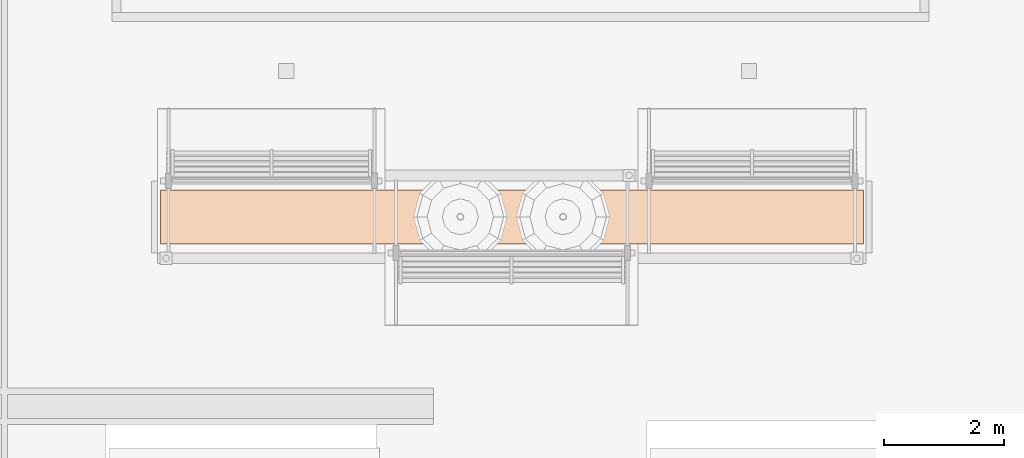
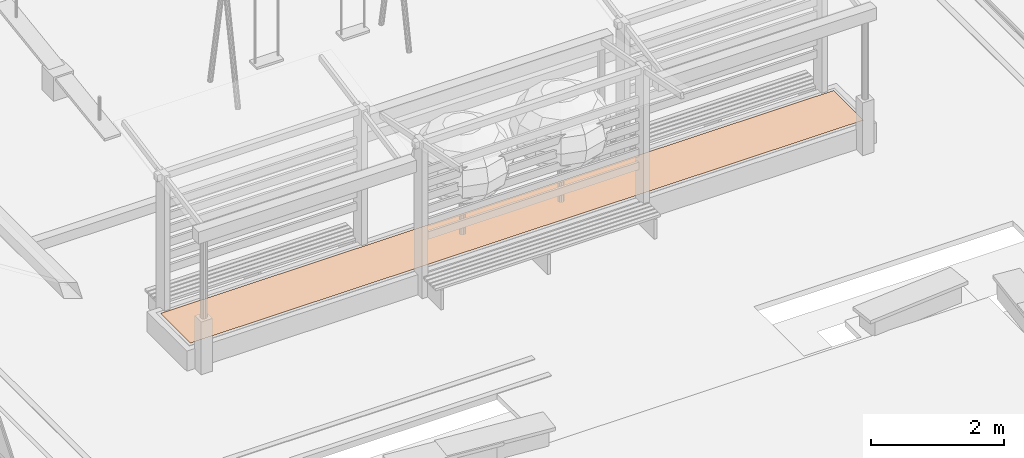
# One storey, part 167 of 177: 1 geographic element.
"""IFC4 building model written with IfcOpenShell, lengths in metres."""

from ifc_helpers import new_model, si_unit, origin, origin_with_axes, place, context, subcontext, project, spatial, triangles, element, save


model = new_model("IFC4")

# Units and contexts
model_context = context("Model", 3, precision=1e-05, world=origin_with_axes())
body_context = subcontext(model_context, "Body", "Model", "MODEL_VIEW")
ifc_project = project(units=[si_unit("LENGTHUNIT", "METRE"), si_unit("AREAUNIT", "SQUARE_METRE"), si_unit("VOLUMEUNIT", "CUBIC_METRE"), si_unit("PLANEANGLEUNIT", "RADIAN")], contexts=[model_context])

# Site, building, storey
site_placement = place(None, origin_with_axes())
site = spatial("IfcSite", under=ifc_project, at=site_placement, Name="Predio Los Mangos - Morales, San Martín", CompositionType="ELEMENT")
building_placement = place(site_placement, origin())
building = spatial("IfcBuilding", under=site, at=building_placement, Name="Hogar de Refugio Temporal", CompositionType="ELEMENT")
storey_placement = place(building_placement, origin())
storey = spatial("IfcBuildingStorey", under=building, at=storey_placement, Name="NIVEL 1 (NPT +0.00)", CompositionType="ELEMENT", Elevation=0.0)

# Geographic element
geographic_element_placement = place(storey_placement, origin())
element("IfcGeographicElement", 1, at=geographic_element_placement, inside=storey, Name="pasto_jardinera_1", ObjectType="Área verde", PredefinedType="TERRAIN", context=body_context, shape_type="Tessellation", body=[
    triangles([(28.955, 73.95, 0.455), (29.105, 73.95, 0.455), (29.105, 74.1, 0.455), (28.955, 74.1, 0.455), (29.105, 74.25, 0.455), (28.955, 74.25, 0.455), (29.105, 74.4, 0.455), (28.955, 74.4, 0.455), (29.105, 74.55, 0.455), (28.955, 74.55, 0.455), (29.105, 74.7, 0.455), (28.955, 74.7, 0.455), (29.105, 74.85, 0.455), (28.955, 74.85, 0.455), (29.255, 73.95, 0.455), (29.255, 74.1, 0.455), (29.255, 74.25, 0.455), (29.255, 74.4, 0.455), (29.255, 74.55, 0.455), (29.255, 74.7, 0.455), (29.255, 74.85, 0.455), (29.405, 73.95, 0.455), (29.405, 74.1, 0.455), (29.405, 74.25, 0.455), (29.405, 74.4, 0.455), (29.405, 74.55, 0.455), (29.405, 74.7, 0.455), (29.405, 74.85, 0.455), (29.555, 73.95, 0.455), (29.555, 74.1, 0.455), (29.555, 74.25, 0.455), (29.555, 74.4, 0.455), (29.555, 74.55, 0.455), (29.555, 74.7, 0.455), (29.555, 74.85, 0.455), (29.705, 73.95, 0.455), (29.705, 74.1, 0.455), (29.705, 74.25, 0.455), (29.705, 74.4, 0.455), (29.705, 74.55, 0.455), (29.705, 74.7, 0.455), (29.705, 74.85, 0.455), (29.855, 73.95, 0.455), (29.855, 74.1, 0.455), (29.855, 74.25, 0.455), (29.855, 74.4, 0.455), (29.855, 74.55, 0.455), (29.855, 74.7, 0.455), (29.855, 74.85, 0.455), (30.005, 73.95, 0.455), (30.005, 74.1, 0.455), (30.005, 74.25, 0.455), (30.005, 74.4, 0.455), (30.005, 74.55, 0.455), (30.005, 74.7, 0.455), (30.005, 74.85, 0.455), (30.155, 73.95, 0.455), (30.155, 74.1, 0.455), (30.155, 74.25, 0.455), (30.155, 74.4, 0.455), (30.155, 74.55, 0.455), (30.155, 74.7, 0.455), (30.155, 74.85, 0.455), (30.305, 73.95, 0.455), (30.305, 74.1, 0.455), (30.305, 74.25, 0.455), (30.305, 74.4, 0.455), (30.305, 74.55, 0.455), (30.305, 74.7, 0.455), (30.305, 74.85, 0.455), (30.455, 73.95, 0.455), (30.455, 74.1, 0.455), (30.455, 74.25, 0.455), (30.455, 74.4, 0.455), (30.455, 74.55, 0.455), (30.455, 74.7, 0.455), (30.455, 74.85, 0.455), (30.605, 73.95, 0.455), (30.605, 74.1, 0.455), (30.605, 74.25, 0.455), (30.605, 74.4, 0.455), (30.605, 74.55, 0.455), (30.605, 74.7, 0.455), (30.605, 74.85, 0.455), (30.755, 73.95, 0.455), (30.755, 74.1, 0.455), (30.755, 74.25, 0.455), (30.755, 74.4, 0.455), (30.755, 74.55, 0.455), (30.755, 74.7, 0.455), (30.755, 74.85, 0.455), (30.905, 73.95, 0.455), (30.905, 74.1, 0.455), (30.905, 74.25, 0.455), (30.905, 74.4, 0.455), (30.905, 74.55, 0.455), (30.905, 74.7, 0.455), (30.905, 74.85, 0.455), (31.055, 73.95, 0.455), (31.055, 74.1, 0.455), (31.055, 74.25, 0.455), (31.055, 74.4, 0.455), (31.055, 74.55, 0.455), (31.055, 74.7, 0.455), (31.055, 74.85, 0.455), (31.205, 73.95, 0.455), (31.205, 74.1, 0.455), (31.205, 74.25, 0.455), (31.205, 74.4, 0.455), (31.205, 74.55, 0.455), (31.205, 74.7, 0.455), (31.205, 74.85, 0.455), (31.355, 73.95, 0.455), (31.355, 74.1, 0.455), (31.355, 74.25, 0.455), (31.355, 74.4, 0.455), (31.355, 74.55, 0.455), (31.355, 74.7, 0.455), (31.355, 74.85, 0.455), (31.505, 73.95, 0.455), (31.505, 74.1, 0.455), (31.505, 74.25, 0.455), (31.505, 74.4, 0.455), (31.505, 74.55, 0.455), (31.505, 74.7, 0.455), (31.505, 74.85, 0.455), (31.655, 73.95, 0.455), (31.655, 74.1, 0.455), (31.655, 74.25, 0.455), (31.655, 74.4, 0.455), (31.655, 74.55, 0.455), (31.655, 74.7, 0.455), (31.655, 74.85, 0.455), (31.805, 73.95, 0.455), (31.805, 74.1, 0.455), (31.805, 74.25, 0.455), (31.805, 74.4, 0.455), (31.805, 74.55, 0.455), (31.805, 74.7, 0.455), (31.805, 74.85, 0.455), (31.955, 73.95, 0.455), (31.955, 74.1, 0.455), (31.955, 74.25, 0.455), (31.955, 74.4, 0.455), (31.955, 74.55, 0.455), (31.955, 74.7, 0.455), (31.955, 74.85, 0.455), (32.105, 73.95, 0.455), (32.105, 74.1, 0.455), (32.105, 74.25, 0.455), (32.105, 74.4, 0.455), (32.105, 74.55, 0.455), (32.105, 74.7, 0.455), (32.105, 74.85, 0.455), (32.255, 73.95, 0.455), (32.255, 74.1, 0.455), (32.255, 74.25, 0.455), (32.255, 74.4, 0.455), (32.255, 74.55, 0.455), (32.255, 74.7, 0.455), (32.255, 74.85, 0.455), (32.405, 73.95, 0.455), (32.405, 74.1, 0.455), (32.405, 74.25, 0.455), (32.405, 74.4, 0.455), (32.405, 74.55, 0.455), (32.405, 74.7, 0.455), (32.405, 74.85, 0.455), (32.555, 73.95, 0.455), (32.555, 74.1, 0.455), (32.555, 74.25, 0.455), (32.555, 74.4, 0.455), (32.555, 74.55, 0.455), (32.555, 74.7, 0.455), (32.555, 74.85, 0.455), (32.705, 73.95, 0.455), (32.705, 74.1, 0.455), (32.705, 74.25, 0.455), (32.705, 74.4, 0.455), (32.705, 74.55, 0.455), (32.705, 74.7, 0.455), (32.705, 74.85, 0.455), (32.855, 73.95, 0.455), (32.855, 74.1, 0.455), (32.855, 74.25, 0.455), (32.855, 74.4, 0.455), (32.855, 74.55, 0.455), (32.855, 74.7, 0.455), (32.855, 74.85, 0.455), (33.005, 73.95, 0.455), (33.005, 74.1, 0.455), (33.005, 74.25, 0.455), (33.005, 74.4, 0.455), (33.005, 74.55, 0.455), (33.005, 74.7, 0.455), (33.005, 74.85, 0.455), (33.155, 73.95, 0.455), (33.155, 74.1, 0.455), (33.155, 74.25, 0.455), (33.155, 74.4, 0.455), (33.155, 74.55, 0.455), (33.155, 74.7, 0.455), (33.155, 74.85, 0.455), (33.305, 73.95, 0.455), (33.305, 74.1, 0.455), (33.305, 74.25, 0.455), (33.305, 74.4, 0.455), (33.305, 74.55, 0.455), (33.305, 74.7, 0.455), (33.305, 74.85, 0.455), (33.455, 73.95, 0.455), (33.455, 74.1, 0.455), (33.455, 74.25, 0.455), (33.455, 74.4, 0.455), (33.455, 74.55, 0.455), (33.455, 74.7, 0.455), (33.455, 74.85, 0.455), (33.605, 73.95, 0.455), (33.605, 74.1, 0.455), (33.605, 74.25, 0.455), (33.605, 74.4, 0.455), (33.605, 74.55, 0.455), (33.605, 74.7, 0.455), (33.605, 74.85, 0.455), (33.755, 73.95, 0.455), (33.755, 74.1, 0.455), (33.755, 74.25, 0.455), (33.755, 74.4, 0.455), (33.755, 74.55, 0.455), (33.755, 74.7, 0.455), (33.755, 74.85, 0.455), (33.905, 73.95, 0.455), (33.905, 74.1, 0.455), (33.905, 74.25, 0.455), (33.905, 74.4, 0.455), (33.905, 74.55, 0.455), (33.905, 74.7, 0.455), (33.905, 74.85, 0.455), (34.055, 73.95, 0.455), (34.055, 74.1, 0.455), (34.055, 74.25, 0.455), (34.055, 74.4, 0.455), (34.055, 74.55, 0.455), (34.055, 74.7, 0.455), (34.055, 74.85, 0.455), (34.205, 73.95, 0.455), (34.205, 74.1, 0.455), (34.205, 74.25, 0.455), (34.205, 74.4, 0.455), (34.205, 74.55, 0.455), (34.205, 74.7, 0.455), (34.205, 74.85, 0.455), (34.355, 73.95, 0.455), (34.355, 74.1, 0.455), (34.355, 74.25, 0.455), (34.355, 74.4, 0.455), (34.355, 74.55, 0.455), (34.355, 74.7, 0.455), (34.355, 74.85, 0.455), (34.505, 73.95, 0.455), (34.505, 74.1, 0.455), (34.505, 74.25, 0.455), (34.505, 74.4, 0.455), (34.505, 74.55, 0.455), (34.505, 74.7, 0.455), (34.505, 74.85, 0.455), (34.655, 73.95, 0.455), (34.655, 74.1, 0.455), (34.655, 74.25, 0.455), (34.655, 74.4, 0.455), (34.655, 74.55, 0.455), (34.655, 74.7, 0.455), (34.655, 74.85, 0.455), (34.805, 73.95, 0.455), (34.805, 74.1, 0.455), (34.805, 74.25, 0.455), (34.805, 74.4, 0.455), (34.805, 74.55, 0.455), (34.805, 74.7, 0.455), (34.805, 74.85, 0.455), (34.955, 73.95, 0.455), (34.955, 74.1, 0.455), (34.955, 74.25, 0.455), (34.955, 74.4, 0.455), (34.955, 74.55, 0.455), (34.955, 74.7, 0.455), (34.955, 74.85, 0.455), (35.105, 73.95, 0.455), (35.105, 74.1, 0.455), (35.105, 74.25, 0.455), (35.105, 74.4, 0.455), (35.105, 74.55, 0.455), (35.105, 74.7, 0.455), (35.105, 74.85, 0.455), (35.255, 73.95, 0.455), (35.255, 74.1, 0.455), (35.255, 74.25, 0.455), (35.255, 74.4, 0.455), (35.255, 74.55, 0.455), (35.255, 74.7, 0.455), (35.255, 74.85, 0.455), (35.405, 73.95, 0.455), (35.405, 74.1, 0.455), (35.405, 74.25, 0.455), (35.405, 74.4, 0.455), (35.405, 74.55, 0.455), (35.405, 74.7, 0.455), (35.405, 74.85, 0.455), (35.555, 73.95, 0.455), (35.555, 74.1, 0.455), (35.555, 74.25, 0.455), (35.555, 74.4, 0.455), (35.555, 74.55, 0.455), (35.555, 74.7, 0.455), (35.555, 74.85, 0.455), (35.705, 73.95, 0.455), (35.705, 74.1, 0.455), (35.705, 74.25, 0.455), (35.705, 74.4, 0.455), (35.705, 74.55, 0.455), (35.705, 74.7, 0.455), (35.705, 74.85, 0.455), (35.855, 73.95, 0.455), (35.855, 74.1, 0.455), (35.855, 74.25, 0.455), (35.855, 74.4, 0.455), (35.855, 74.55, 0.455), (35.855, 74.7, 0.455), (35.855, 74.85, 0.455), (36.005, 73.95, 0.455), (36.005, 74.1, 0.455), (36.005, 74.25, 0.455), (36.005, 74.4, 0.455), (36.005, 74.55, 0.455), (36.005, 74.7, 0.455), (36.005, 74.85, 0.455), (36.155, 73.95, 0.455), (36.155, 74.1, 0.455), (36.155, 74.25, 0.455), (36.155, 74.4, 0.455), (36.155, 74.55, 0.455), (36.155, 74.7, 0.455), (36.155, 74.85, 0.455), (36.305, 73.95, 0.455), (36.305, 74.1, 0.455), (36.305, 74.25, 0.455), (36.305, 74.4, 0.455), (36.305, 74.55, 0.455), (36.305, 74.7, 0.455), (36.305, 74.85, 0.455), (36.455, 73.95, 0.455), (36.455, 74.1, 0.455), (36.455, 74.25, 0.455), (36.455, 74.4, 0.455), (36.455, 74.55, 0.455), (36.455, 74.7, 0.455), (36.455, 74.85, 0.455), (36.605, 73.95, 0.455), (36.605, 74.1, 0.455), (36.605, 74.25, 0.455), (36.605, 74.4, 0.455), (36.605, 74.55, 0.455), (36.605, 74.7, 0.455), (36.605, 74.85, 0.455), (36.755, 73.95, 0.455), (36.755, 74.1, 0.455), (36.755, 74.25, 0.455), (36.755, 74.4, 0.455), (36.755, 74.55, 0.455), (36.755, 74.7, 0.455), (36.755, 74.85, 0.455), (36.905, 73.95, 0.455), (36.905, 74.1, 0.455), (36.905, 74.25, 0.455), (36.905, 74.4, 0.455), (36.905, 74.55, 0.455), (36.905, 74.7, 0.455), (36.905, 74.85, 0.455), (37.055, 73.95, 0.455), (37.055, 74.1, 0.455), (37.055, 74.25, 0.455), (37.055, 74.4, 0.455), (37.055, 74.55, 0.455), (37.055, 74.7, 0.455), (37.055, 74.85, 0.455), (37.205, 73.95, 0.455), (37.205, 74.1, 0.455), (37.205, 74.25, 0.455), (37.205, 74.4, 0.455), (37.205, 74.55, 0.455), (37.205, 74.7, 0.455), (37.205, 74.85, 0.455), (37.355, 73.95, 0.455), (37.355, 74.1, 0.455), (37.355, 74.25, 0.455), (37.355, 74.4, 0.455), (37.355, 74.55, 0.455), (37.355, 74.7, 0.455), (37.355, 74.85, 0.455), (37.505, 73.95, 0.455), (37.505, 74.1, 0.455), (37.505, 74.25, 0.455), (37.505, 74.4, 0.455), (37.505, 74.55, 0.455), (37.505, 74.7, 0.455), (37.505, 74.85, 0.455), (37.655, 73.95, 0.455), (37.655, 74.1, 0.455), (37.655, 74.25, 0.455), (37.655, 74.4, 0.455), (37.655, 74.55, 0.455), (37.655, 74.7, 0.455), (37.655, 74.85, 0.455), (37.805, 73.95, 0.455), (37.805, 74.1, 0.455), (37.805, 74.25, 0.455), (37.805, 74.4, 0.455), (37.805, 74.55, 0.455), (37.805, 74.7, 0.455), (37.805, 74.85, 0.455), (37.955, 73.95, 0.455), (37.955, 74.1, 0.455), (37.955, 74.25, 0.455), (37.955, 74.4, 0.455), (37.955, 74.55, 0.455), (37.955, 74.7, 0.455), (37.955, 74.85, 0.455), (38.105, 73.95, 0.455), (38.105, 74.1, 0.455), (38.105, 74.25, 0.455), (38.105, 74.4, 0.455), (38.105, 74.55, 0.455), (38.105, 74.7, 0.455), (38.105, 74.85, 0.455), (38.255, 73.95, 0.455), (38.255, 74.1, 0.455), (38.255, 74.25, 0.455), (38.255, 74.4, 0.455), (38.255, 74.55, 0.455), (38.255, 74.7, 0.455), (38.255, 74.85, 0.455), (38.405, 73.95, 0.455), (38.405, 74.1, 0.455), (38.405, 74.25, 0.455), (38.405, 74.4, 0.455), (38.405, 74.55, 0.455), (38.405, 74.7, 0.455), (38.405, 74.85, 0.455), (38.555, 73.95, 0.455), (38.555, 74.1, 0.455), (38.555, 74.25, 0.455), (38.555, 74.4, 0.455), (38.555, 74.55, 0.455), (38.555, 74.7, 0.455), (38.555, 74.85, 0.455), (38.705, 73.95, 0.455), (38.705, 74.1, 0.455), (38.705, 74.25, 0.455), (38.705, 74.4, 0.455), (38.705, 74.55, 0.455), (38.705, 74.7, 0.455), (38.705, 74.85, 0.455), (38.855, 73.95, 0.455), (38.855, 74.1, 0.455), (38.855, 74.25, 0.455), (38.855, 74.4, 0.455), (38.855, 74.55, 0.455), (38.855, 74.7, 0.455), (38.855, 74.85, 0.455), (39.005, 73.95, 0.455), (39.005, 74.1, 0.455), (39.005, 74.25, 0.455), (39.005, 74.4, 0.455), (39.005, 74.55, 0.455), (39.005, 74.7, 0.455), (39.005, 74.85, 0.455), (39.155, 73.95, 0.455), (39.155, 74.1, 0.455), (39.155, 74.25, 0.455), (39.155, 74.4, 0.455), (39.155, 74.55, 0.455), (39.155, 74.7, 0.455), (39.155, 74.85, 0.455), (39.305, 73.95, 0.455), (39.305, 74.1, 0.455), (39.305, 74.25, 0.455), (39.305, 74.4, 0.455), (39.305, 74.55, 0.455), (39.305, 74.7, 0.455), (39.305, 74.85, 0.455), (39.455, 73.95, 0.455), (39.455, 74.1, 0.455), (39.455, 74.25, 0.455), (39.455, 74.4, 0.455), (39.455, 74.55, 0.455), (39.455, 74.7, 0.455), (39.455, 74.85, 0.455), (39.605, 73.95, 0.455), (39.605, 74.1, 0.455), (39.605, 74.25, 0.455), (39.605, 74.4, 0.455), (39.605, 74.55, 0.455), (39.605, 74.7, 0.455), (39.605, 74.85, 0.455), (39.755, 73.95, 0.455), (39.755, 74.1, 0.455), (39.755, 74.25, 0.455), (39.755, 74.4, 0.455), (39.755, 74.55, 0.455), (39.755, 74.7, 0.455), (39.755, 74.85, 0.455), (39.905, 73.95, 0.455), (39.905, 74.1, 0.455), (39.905, 74.25, 0.455), (39.905, 74.4, 0.455), (39.905, 74.55, 0.455), (39.905, 74.7, 0.455), (39.905, 74.85, 0.455), (40.055, 73.95, 0.455), (40.055, 74.1, 0.455), (40.055, 74.25, 0.455), (40.055, 74.4, 0.455), (40.055, 74.55, 0.455), (40.055, 74.7, 0.455), (40.055, 74.85, 0.455), (40.205, 73.95, 0.455), (40.205, 74.1, 0.455), (40.205, 74.25, 0.455), (40.205, 74.4, 0.455), (40.205, 74.55, 0.455), (40.205, 74.7, 0.455), (40.205, 74.85, 0.455), (40.355, 73.95, 0.455), (40.355, 74.1, 0.455), (40.355, 74.25, 0.455), (40.355, 74.4, 0.455), (40.355, 74.55, 0.455), (40.355, 74.7, 0.455), (40.355, 74.85, 0.455), (40.505, 73.95, 0.455), (40.505, 74.1, 0.455), (40.505, 74.25, 0.455), (40.505, 74.4, 0.455), (40.505, 74.55, 0.455), (40.505, 74.7, 0.455), (40.505, 74.85, 0.455), (40.655, 73.95, 0.455), (40.655, 74.1, 0.455), (40.655, 74.25, 0.455), (40.655, 74.4, 0.455), (40.655, 74.55, 0.455), (40.655, 74.7, 0.455), (40.655, 74.85, 0.455)], [[1, 2, 3], [1, 3, 4], [4, 3, 5], [4, 5, 6], [6, 5, 7], [6, 7, 8], [8, 7, 9], [8, 9, 10], [10, 9, 11], [10, 11, 12], [12, 11, 13], [12, 13, 14], [2, 15, 16], [2, 16, 3], [3, 16, 17], [3, 17, 5], [5, 17, 18], [5, 18, 7], [7, 18, 19], [7, 19, 9], [9, 19, 20], [9, 20, 11], [11, 20, 21], [11, 21, 13], [15, 22, 23], [15, 23, 16], [16, 23, 24], [16, 24, 17], [17, 24, 25], [17, 25, 18], [18, 25, 26], [18, 26, 19], [19, 26, 27], [19, 27, 20], [20, 27, 28], [20, 28, 21], [22, 29, 30], [22, 30, 23], [23, 30, 31], [23, 31, 24], [24, 31, 32], [24, 32, 25], [25, 32, 33], [25, 33, 26], [26, 33, 34], [26, 34, 27], [27, 34, 35], [27, 35, 28], [29, 36, 37], [29, 37, 30], [30, 37, 38], [30, 38, 31], [31, 38, 39], [31, 39, 32], [32, 39, 40], [32, 40, 33], [33, 40, 41], [33, 41, 34], [34, 41, 42], [34, 42, 35], [36, 43, 44], [36, 44, 37], [37, 44, 45], [37, 45, 38], [38, 45, 46], [38, 46, 39], [39, 46, 47], [39, 47, 40], [40, 47, 48], [40, 48, 41], [41, 48, 49], [41, 49, 42], [43, 50, 51], [43, 51, 44], [44, 51, 52], [44, 52, 45], [45, 52, 53], [45, 53, 46], [46, 53, 54], [46, 54, 47], [47, 54, 55], [47, 55, 48], [48, 55, 56], [48, 56, 49], [50, 57, 58], [50, 58, 51], [51, 58, 59], [51, 59, 52], [52, 59, 60], [52, 60, 53], [53, 60, 61], [53, 61, 54], [54, 61, 62], [54, 62, 55], [55, 62, 63], [55, 63, 56], [57, 64, 65], [57, 65, 58], [58, 65, 66], [58, 66, 59], [59, 66, 67], [59, 67, 60], [60, 67, 68], [60, 68, 61], [61, 68, 69], [61, 69, 62], [62, 69, 70], [62, 70, 63], [64, 71, 72], [64, 72, 65], [65, 72, 73], [65, 73, 66], [66, 73, 74], [66, 74, 67], [67, 74, 75], [67, 75, 68], [68, 75, 76], [68, 76, 69], [69, 76, 77], [69, 77, 70], [71, 78, 79], [71, 79, 72], [72, 79, 80], [72, 80, 73], [73, 80, 81], [73, 81, 74], [74, 81, 82], [74, 82, 75], [75, 82, 83], [75, 83, 76], [76, 83, 84], [76, 84, 77], [78, 85, 86], [78, 86, 79], [79, 86, 87], [79, 87, 80], [80, 87, 88], [80, 88, 81], [81, 88, 89], [81, 89, 82], [82, 89, 90], [82, 90, 83], [83, 90, 91], [83, 91, 84], [85, 92, 93], [85, 93, 86], [86, 93, 94], [86, 94, 87], [87, 94, 95], [87, 95, 88], [88, 95, 96], [88, 96, 89], [89, 96, 97], [89, 97, 90], [90, 97, 98], [90, 98, 91], [92, 99, 100], [92, 100, 93], [93, 100, 101], [93, 101, 94], [94, 101, 102], [94, 102, 95], [95, 102, 103], [95, 103, 96], [96, 103, 104], [96, 104, 97], [97, 104, 105], [97, 105, 98], [99, 106, 107], [99, 107, 100], [100, 107, 108], [100, 108, 101], [101, 108, 109], [101, 109, 102], [102, 109, 110], [102, 110, 103], [103, 110, 111], [103, 111, 104], [104, 111, 112], [104, 112, 105], [106, 113, 114], [106, 114, 107], [107, 114, 115], [107, 115, 108], [108, 115, 116], [108, 116, 109], [109, 116, 117], [109, 117, 110], [110, 117, 118], [110, 118, 111], [111, 118, 119], [111, 119, 112], [113, 120, 121], [113, 121, 114], [114, 121, 122], [114, 122, 115], [115, 122, 123], [115, 123, 116], [116, 123, 124], [116, 124, 117], [117, 124, 125], [117, 125, 118], [118, 125, 126], [118, 126, 119], [120, 127, 128], [120, 128, 121], [121, 128, 129], [121, 129, 122], [122, 129, 130], [122, 130, 123], [123, 130, 131], [123, 131, 124], [124, 131, 132], [124, 132, 125], [125, 132, 133], [125, 133, 126], [127, 134, 135], [127, 135, 128], [128, 135, 136], [128, 136, 129], [129, 136, 137], [129, 137, 130], [130, 137, 138], [130, 138, 131], [131, 138, 139], [131, 139, 132], [132, 139, 140], [132, 140, 133], [134, 141, 142], [134, 142, 135], [135, 142, 143], [135, 143, 136], [136, 143, 144], [136, 144, 137], [137, 144, 145], [137, 145, 138], [138, 145, 146], [138, 146, 139], [139, 146, 147], [139, 147, 140], [141, 148, 149], [141, 149, 142], [142, 149, 150], [142, 150, 143], [143, 150, 151], [143, 151, 144], [144, 151, 152], [144, 152, 145], [145, 152, 153], [145, 153, 146], [146, 153, 154], [146, 154, 147], [148, 155, 156], [148, 156, 149], [149, 156, 157], [149, 157, 150], [150, 157, 158], [150, 158, 151], [151, 158, 159], [151, 159, 152], [152, 159, 160], [152, 160, 153], [153, 160, 161], [153, 161, 154], [155, 162, 163], [155, 163, 156], [156, 163, 164], [156, 164, 157], [157, 164, 165], [157, 165, 158], [158, 165, 166], [158, 166, 159], [159, 166, 167], [159, 167, 160], [160, 167, 168], [160, 168, 161], [162, 169, 170], [162, 170, 163], [163, 170, 171], [163, 171, 164], [164, 171, 172], [164, 172, 165], [165, 172, 173], [165, 173, 166], [166, 173, 174], [166, 174, 167], [167, 174, 175], [167, 175, 168], [169, 176, 177], [169, 177, 170], [170, 177, 178], [170, 178, 171], [171, 178, 179], [171, 179, 172], [172, 179, 180], [172, 180, 173], [173, 180, 181], [173, 181, 174], [174, 181, 182], [174, 182, 175], [176, 183, 184], [176, 184, 177], [177, 184, 185], [177, 185, 178], [178, 185, 186], [178, 186, 179], [179, 186, 187], [179, 187, 180], [180, 187, 188], [180, 188, 181], [181, 188, 189], [181, 189, 182], [183, 190, 191], [183, 191, 184], [184, 191, 192], [184, 192, 185], [185, 192, 193], [185, 193, 186], [186, 193, 194], [186, 194, 187], [187, 194, 195], [187, 195, 188], [188, 195, 196], [188, 196, 189], [190, 197, 198], [190, 198, 191], [191, 198, 199], [191, 199, 192], [192, 199, 200], [192, 200, 193], [193, 200, 201], [193, 201, 194], [194, 201, 202], [194, 202, 195], [195, 202, 203], [195, 203, 196], [197, 204, 205], [197, 205, 198], [198, 205, 206], [198, 206, 199], [199, 206, 207], [199, 207, 200], [200, 207, 208], [200, 208, 201], [201, 208, 209], [201, 209, 202], [202, 209, 210], [202, 210, 203], [204, 211, 212], [204, 212, 205], [205, 212, 213], [205, 213, 206], [206, 213, 214], [206, 214, 207], [207, 214, 215], [207, 215, 208], [208, 215, 216], [208, 216, 209], [209, 216, 217], [209, 217, 210], [211, 218, 219], [211, 219, 212], [212, 219, 220], [212, 220, 213], [213, 220, 221], [213, 221, 214], [214, 221, 222], [214, 222, 215], [215, 222, 223], [215, 223, 216], [216, 223, 224], [216, 224, 217], [218, 225, 226], [218, 226, 219], [219, 226, 227], [219, 227, 220], [220, 227, 228], [220, 228, 221], [221, 228, 229], [221, 229, 222], [222, 229, 230], [222, 230, 223], [223, 230, 231], [223, 231, 224], [225, 232, 233], [225, 233, 226], [226, 233, 234], [226, 234, 227], [227, 234, 235], [227, 235, 228], [228, 235, 236], [228, 236, 229], [229, 236, 237], [229, 237, 230], [230, 237, 238], [230, 238, 231], [232, 239, 240], [232, 240, 233], [233, 240, 241], [233, 241, 234], [234, 241, 242], [234, 242, 235], [235, 242, 243], [235, 243, 236], [236, 243, 244], [236, 244, 237], [237, 244, 245], [237, 245, 238], [239, 246, 247], [239, 247, 240], [240, 247, 248], [240, 248, 241], [241, 248, 249], [241, 249, 242], [242, 249, 250], [242, 250, 243], [243, 250, 251], [243, 251, 244], [244, 251, 252], [244, 252, 245], [246, 253, 254], [246, 254, 247], [247, 254, 255], [247, 255, 248], [248, 255, 256], [248, 256, 249], [249, 256, 257], [249, 257, 250], [250, 257, 258], [250, 258, 251], [251, 258, 259], [251, 259, 252], [253, 260, 261], [253, 261, 254], [254, 261, 262], [254, 262, 255], [255, 262, 263], [255, 263, 256], [256, 263, 264], [256, 264, 257], [257, 264, 265], [257, 265, 258], [258, 265, 266], [258, 266, 259], [260, 267, 268], [260, 268, 261], [261, 268, 269], [261, 269, 262], [262, 269, 270], [262, 270, 263], [263, 270, 271], [263, 271, 264], [264, 271, 272], [264, 272, 265], [265, 272, 273], [265, 273, 266], [267, 274, 275], [267, 275, 268], [268, 275, 276], [268, 276, 269], [269, 276, 277], [269, 277, 270], [270, 277, 278], [270, 278, 271], [271, 278, 279], [271, 279, 272], [272, 279, 280], [272, 280, 273], [274, 281, 282], [274, 282, 275], [275, 282, 283], [275, 283, 276], [276, 283, 284], [276, 284, 277], [277, 284, 285], [277, 285, 278], [278, 285, 286], [278, 286, 279], [279, 286, 287], [279, 287, 280], [281, 288, 289], [281, 289, 282], [282, 289, 290], [282, 290, 283], [283, 290, 291], [283, 291, 284], [284, 291, 292], [284, 292, 285], [285, 292, 293], [285, 293, 286], [286, 293, 294], [286, 294, 287], [288, 295, 296], [288, 296, 289], [289, 296, 297], [289, 297, 290], [290, 297, 298], [290, 298, 291], [291, 298, 299], [291, 299, 292], [292, 299, 300], [292, 300, 293], [293, 300, 301], [293, 301, 294], [295, 302, 303], [295, 303, 296], [296, 303, 304], [296, 304, 297], [297, 304, 305], [297, 305, 298], [298, 305, 306], [298, 306, 299], [299, 306, 307], [299, 307, 300], [300, 307, 308], [300, 308, 301], [302, 309, 310], [302, 310, 303], [303, 310, 311], [303, 311, 304], [304, 311, 312], [304, 312, 305], [305, 312, 313], [305, 313, 306], [306, 313, 314], [306, 314, 307], [307, 314, 315], [307, 315, 308], [309, 316, 317], [309, 317, 310], [310, 317, 318], [310, 318, 311], [311, 318, 319], [311, 319, 312], [312, 319, 320], [312, 320, 313], [313, 320, 321], [313, 321, 314], [314, 321, 322], [314, 322, 315], [316, 323, 324], [316, 324, 317], [317, 324, 325], [317, 325, 318], [318, 325, 326], [318, 326, 319], [319, 326, 327], [319, 327, 320], [320, 327, 328], [320, 328, 321], [321, 328, 329], [321, 329, 322], [323, 330, 331], [323, 331, 324], [324, 331, 332], [324, 332, 325], [325, 332, 333], [325, 333, 326], [326, 333, 334], [326, 334, 327], [327, 334, 335], [327, 335, 328], [328, 335, 336], [328, 336, 329], [330, 337, 338], [330, 338, 331], [331, 338, 339], [331, 339, 332], [332, 339, 340], [332, 340, 333], [333, 340, 341], [333, 341, 334], [334, 341, 342], [334, 342, 335], [335, 342, 343], [335, 343, 336], [337, 344, 345], [337, 345, 338], [338, 345, 346], [338, 346, 339], [339, 346, 347], [339, 347, 340], [340, 347, 348], [340, 348, 341], [341, 348, 349], [341, 349, 342], [342, 349, 350], [342, 350, 343], [344, 351, 352], [344, 352, 345], [345, 352, 353], [345, 353, 346], [346, 353, 354], [346, 354, 347], [347, 354, 355], [347, 355, 348], [348, 355, 356], [348, 356, 349], [349, 356, 357], [349, 357, 350], [351, 358, 359], [351, 359, 352], [352, 359, 360], [352, 360, 353], [353, 360, 361], [353, 361, 354], [354, 361, 362], [354, 362, 355], [355, 362, 363], [355, 363, 356], [356, 363, 364], [356, 364, 357], [358, 365, 366], [358, 366, 359], [359, 366, 367], [359, 367, 360], [360, 367, 368], [360, 368, 361], [361, 368, 369], [361, 369, 362], [362, 369, 370], [362, 370, 363], [363, 370, 371], [363, 371, 364], [365, 372, 373], [365, 373, 366], [366, 373, 374], [366, 374, 367], [367, 374, 375], [367, 375, 368], [368, 375, 376], [368, 376, 369], [369, 376, 377], [369, 377, 370], [370, 377, 378], [370, 378, 371], [372, 379, 380], [372, 380, 373], [373, 380, 381], [373, 381, 374], [374, 381, 382], [374, 382, 375], [375, 382, 383], [375, 383, 376], [376, 383, 384], [376, 384, 377], [377, 384, 385], [377, 385, 378], [379, 386, 387], [379, 387, 380], [380, 387, 388], [380, 388, 381], [381, 388, 389], [381, 389, 382], [382, 389, 390], [382, 390, 383], [383, 390, 391], [383, 391, 384], [384, 391, 392], [384, 392, 385], [386, 393, 394], [386, 394, 387], [387, 394, 395], [387, 395, 388], [388, 395, 396], [388, 396, 389], [389, 396, 397], [389, 397, 390], [390, 397, 398], [390, 398, 391], [391, 398, 399], [391, 399, 392], [393, 400, 401], [393, 401, 394], [394, 401, 402], [394, 402, 395], [395, 402, 403], [395, 403, 396], [396, 403, 404], [396, 404, 397], [397, 404, 405], [397, 405, 398], [398, 405, 406], [398, 406, 399], [400, 407, 408], [400, 408, 401], [401, 408, 409], [401, 409, 402], [402, 409, 410], [402, 410, 403], [403, 410, 411], [403, 411, 404], [404, 411, 412], [404, 412, 405], [405, 412, 413], [405, 413, 406], [407, 414, 415], [407, 415, 408], [408, 415, 416], [408, 416, 409], [409, 416, 417], [409, 417, 410], [410, 417, 418], [410, 418, 411], [411, 418, 419], [411, 419, 412], [412, 419, 420], [412, 420, 413], [414, 421, 422], [414, 422, 415], [415, 422, 423], [415, 423, 416], [416, 423, 424], [416, 424, 417], [417, 424, 425], [417, 425, 418], [418, 425, 426], [418, 426, 419], [419, 426, 427], [419, 427, 420], [421, 428, 429], [421, 429, 422], [422, 429, 430], [422, 430, 423], [423, 430, 431], [423, 431, 424], [424, 431, 432], [424, 432, 425], [425, 432, 433], [425, 433, 426], [426, 433, 434], [426, 434, 427], [428, 435, 436], [428, 436, 429], [429, 436, 437], [429, 437, 430], [430, 437, 438], [430, 438, 431], [431, 438, 439], [431, 439, 432], [432, 439, 440], [432, 440, 433], [433, 440, 441], [433, 441, 434], [435, 442, 443], [435, 443, 436], [436, 443, 444], [436, 444, 437], [437, 444, 445], [437, 445, 438], [438, 445, 446], [438, 446, 439], [439, 446, 447], [439, 447, 440], [440, 447, 448], [440, 448, 441], [442, 449, 450], [442, 450, 443], [443, 450, 451], [443, 451, 444], [444, 451, 452], [444, 452, 445], [445, 452, 453], [445, 453, 446], [446, 453, 454], [446, 454, 447], [447, 454, 455], [447, 455, 448], [449, 456, 457], [449, 457, 450], [450, 457, 458], [450, 458, 451], [451, 458, 459], [451, 459, 452], [452, 459, 460], [452, 460, 453], [453, 460, 461], [453, 461, 454], [454, 461, 462], [454, 462, 455], [456, 463, 464], [456, 464, 457], [457, 464, 465], [457, 465, 458], [458, 465, 466], [458, 466, 459], [459, 466, 467], [459, 467, 460], [460, 467, 468], [460, 468, 461], [461, 468, 469], [461, 469, 462], [463, 470, 471], [463, 471, 464], [464, 471, 472], [464, 472, 465], [465, 472, 473], [465, 473, 466], [466, 473, 474], [466, 474, 467], [467, 474, 475], [467, 475, 468], [468, 475, 476], [468, 476, 469], [470, 477, 478], [470, 478, 471], [471, 478, 479], [471, 479, 472], [472, 479, 480], [472, 480, 473], [473, 480, 481], [473, 481, 474], [474, 481, 482], [474, 482, 475], [475, 482, 483], [475, 483, 476], [477, 484, 485], [477, 485, 478], [478, 485, 486], [478, 486, 479], [479, 486, 487], [479, 487, 480], [480, 487, 488], [480, 488, 481], [481, 488, 489], [481, 489, 482], [482, 489, 490], [482, 490, 483], [484, 491, 492], [484, 492, 485], [485, 492, 493], [485, 493, 486], [486, 493, 494], [486, 494, 487], [487, 494, 495], [487, 495, 488], [488, 495, 496], [488, 496, 489], [489, 496, 497], [489, 497, 490], [491, 498, 499], [491, 499, 492], [492, 499, 500], [492, 500, 493], [493, 500, 501], [493, 501, 494], [494, 501, 502], [494, 502, 495], [495, 502, 503], [495, 503, 496], [496, 503, 504], [496, 504, 497], [498, 505, 506], [498, 506, 499], [499, 506, 507], [499, 507, 500], [500, 507, 508], [500, 508, 501], [501, 508, 509], [501, 509, 502], [502, 509, 510], [502, 510, 503], [503, 510, 511], [503, 511, 504], [505, 512, 513], [505, 513, 506], [506, 513, 514], [506, 514, 507], [507, 514, 515], [507, 515, 508], [508, 515, 516], [508, 516, 509], [509, 516, 517], [509, 517, 510], [510, 517, 518], [510, 518, 511], [512, 519, 520], [512, 520, 513], [513, 520, 521], [513, 521, 514], [514, 521, 522], [514, 522, 515], [515, 522, 523], [515, 523, 516], [516, 523, 524], [516, 524, 517], [517, 524, 525], [517, 525, 518], [519, 526, 527], [519, 527, 520], [520, 527, 528], [520, 528, 521], [521, 528, 529], [521, 529, 522], [522, 529, 530], [522, 530, 523], [523, 530, 531], [523, 531, 524], [524, 531, 532], [524, 532, 525], [526, 533, 534], [526, 534, 527], [527, 534, 535], [527, 535, 528], [528, 535, 536], [528, 536, 529], [529, 536, 537], [529, 537, 530], [530, 537, 538], [530, 538, 531], [531, 538, 539], [531, 539, 532], [533, 540, 541], [533, 541, 534], [534, 541, 542], [534, 542, 535], [535, 542, 543], [535, 543, 536], [536, 543, 544], [536, 544, 537], [537, 544, 545], [537, 545, 538], [538, 545, 546], [538, 546, 539], [540, 547, 548], [540, 548, 541], [541, 548, 549], [541, 549, 542], [542, 549, 550], [542, 550, 543], [543, 550, 551], [543, 551, 544], [544, 551, 552], [544, 552, 545], [545, 552, 553], [545, 553, 546]]),
])

save(model, "model.ifc")
